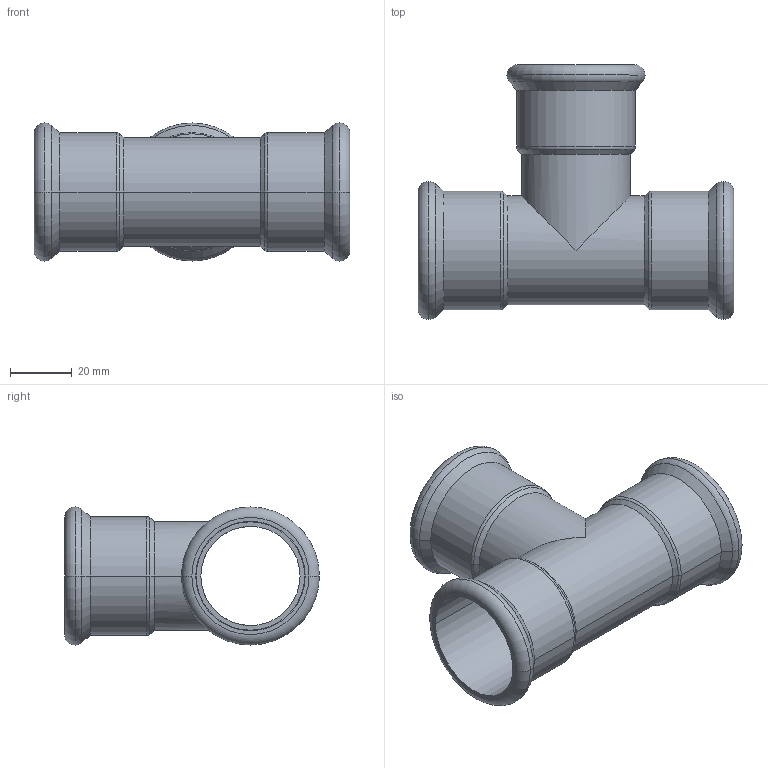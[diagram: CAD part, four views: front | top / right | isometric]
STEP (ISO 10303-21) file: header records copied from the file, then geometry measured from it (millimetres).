
FILE_DESCRIPTION(('CoCreate Modeling STEP Export'),'2;1');
FILE_NAME('C1414 35x35x35.stp','2014-11-11T16:56:48',(''),(''),'CoCreate Modeling STEP processor for AP214 (Solid Model)','CoCreate Modeling 17.00A 17-Jun-2010 (C) Parametric Technology GmbH','');
FILE_SCHEMA(('AUTOMOTIVE_DESIGN { 1 0 10303 214 1 1 1 1 }'));
Length unit declared in the file: millimetre
Products named in the file (2): C1414_35x35x35
Assembly tree (1 placements, depth 2):
  C1414_35x35x35
    C1414_35x35x35
Bounding box: 102 x 82.28 x 44.55 mm (x, y, z)
Volume: 31905 mm3; surface area: 34232.5 mm2
Topology: 1 solids, 1 shells, 65 faces, 138 edges, 80 vertices
Faces by surface type: cylinder 26, torus 18, cone 12, plane 9
Entity records: 1452 total; most frequent: ORIENTED_EDGE 276, DIRECTION 226, CARTESIAN_POINT 212, EDGE_CURVE 138, AXIS2_PLACEMENT_3D 94, VERTEX_POINT 80, EDGE_LOOP 74, FACE_OUTER_BOUND 65
